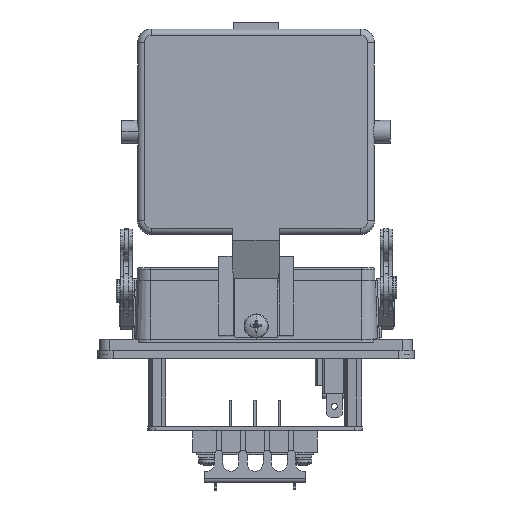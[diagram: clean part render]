
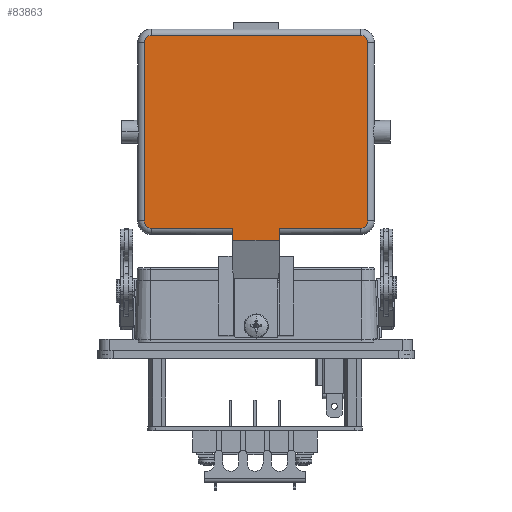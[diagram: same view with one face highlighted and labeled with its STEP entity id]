
A CAD part, front view. The second image highlights one B-rep face of the part: STEP entity #83863.
In plain terms, the highlighted planar face has unit normal (0, -1, -0.002).
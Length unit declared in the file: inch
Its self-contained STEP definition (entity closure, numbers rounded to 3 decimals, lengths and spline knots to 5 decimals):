
#40359 = LINE ( 'NONE', #40447, #40446 ) ;
#40360 = CARTESIAN_POINT ( 'NONE',  ( 0.68854, -1.73273, 0.82541 ) ) ;
#40445 = DIRECTION ( 'NONE',  ( 1., 0., 0. ) ) ;
#40446 = VECTOR ( 'NONE', #40445, 39.37008 ) ;
#40447 = CARTESIAN_POINT ( 'NONE',  ( 0.68854, -1.73273, 0.82541 ) ) ;
#41749 = CARTESIAN_POINT ( 'NONE',  ( 1.4153, -1.73229, 0.63572 ) ) ;
#41801 = DIRECTION ( 'NONE',  ( -1., 0., 0. ) ) ;
#41802 = DIRECTION ( 'NONE',  ( 0., -1., -0.002 ) ) ;
#41803 = CARTESIAN_POINT ( 'NONE',  ( 2.68792, -1.733, 0.94003 ) ) ;
#41804 = AXIS2_PLACEMENT_3D ( 'NONE', #41803, #41802, #41801 ) ;
#41805 = CIRCLE ( 'NONE', #41804, 0.11462 ) ;
#41809 = CARTESIAN_POINT ( 'NONE',  ( 2.80254, -1.733, 0.94003 ) ) ;
#41950 = CARTESIAN_POINT ( 'NONE',  ( 1.4153, -1.73273, 0.82541 ) ) ;
#42019 = DIRECTION ( 'NONE',  ( 1., 0., 0. ) ) ;
#42021 = VECTOR ( 'NONE', #42019, 39.37008 ) ;
#42023 = CARTESIAN_POINT ( 'NONE',  ( 2.68792, -1.73273, 0.82541 ) ) ;
#42024 = LINE ( 'NONE', #42023, #42021 ) ;
#42030 = CARTESIAN_POINT ( 'NONE',  ( 2.68792, -1.73273, 0.82541 ) ) ;
#42309 = CARTESIAN_POINT ( 'NONE',  ( -0.58408, -1.73273, 0.82541 ) ) ;
#42342 = CARTESIAN_POINT ( 'NONE',  ( -0.69869, -1.733, 0.94003 ) ) ;
#42343 = DIRECTION ( 'NONE',  ( -1., 0., 0. ) ) ;
#42345 = DIRECTION ( 'NONE',  ( 0., -1., -0.002 ) ) ;
#42346 = CARTESIAN_POINT ( 'NONE',  ( -0.58408, -1.733, 0.94003 ) ) ;
#42347 = AXIS2_PLACEMENT_3D ( 'NONE', #42346, #42345, #42343 ) ;
#42348 = CIRCLE ( 'NONE', #42347, 0.11462 ) ;
#43598 = DIRECTION ( 'NONE',  ( 0., 0.002, -1. ) ) ;
#43599 = VECTOR ( 'NONE', #43598, 39.37008 ) ;
#43600 = CARTESIAN_POINT ( 'NONE',  ( 1.4153, -1.72568, -2.20602 ) ) ;
#43601 = LINE ( 'NONE', #43600, #43599 ) ;
#43719 = DIRECTION ( 'NONE',  ( -1., 0., 0. ) ) ;
#43720 = DIRECTION ( 'NONE',  ( 0., -1., -0.002 ) ) ;
#43721 = CARTESIAN_POINT ( 'NONE',  ( 2.68792, -1.73947, 3.72402 ) ) ;
#43722 = AXIS2_PLACEMENT_3D ( 'NONE', #43721, #43720, #43719 ) ;
#43723 = CIRCLE ( 'NONE', #43722, 0.11462 ) ;
#43741 = DIRECTION ( 'NONE',  ( 0., -0.002, 1. ) ) ;
#43743 = VECTOR ( 'NONE', #43741, 39.37008 ) ;
#43746 = CARTESIAN_POINT ( 'NONE',  ( 2.80254, -1.73947, 3.72402 ) ) ;
#43748 = LINE ( 'NONE', #43746, #43743 ) ;
#43755 = CARTESIAN_POINT ( 'NONE',  ( 2.80254, -1.73947, 3.72402 ) ) ;
#43769 = DIRECTION ( 'NONE',  ( -1., 0., 0. ) ) ;
#43770 = VECTOR ( 'NONE', #43769, 39.37008 ) ;
#43771 = CARTESIAN_POINT ( 'NONE',  ( 1.05192, -1.73974, 3.83864 ) ) ;
#43772 = LINE ( 'NONE', #43771, #43770 ) ;
#43774 = CARTESIAN_POINT ( 'NONE',  ( -0.58408, -1.73974, 3.83864 ) ) ;
#43798 = CARTESIAN_POINT ( 'NONE',  ( 2.68792, -1.73974, 3.83864 ) ) ;
#45340 = CARTESIAN_POINT ( 'NONE',  ( 0.68854, -1.73229, 0.63572 ) ) ;
#45801 = LINE ( 'NONE', #45960, #45958 ) ;
#45956 = DIRECTION ( 'NONE',  ( 0., -0.002, 1. ) ) ;
#45958 = VECTOR ( 'NONE', #45956, 39.37008 ) ;
#45960 = CARTESIAN_POINT ( 'NONE',  ( 0.68854, -1.72568, -2.20602 ) ) ;
#46081 = DIRECTION ( 'NONE',  ( 0., 0.002, -1. ) ) ;
#46084 = VECTOR ( 'NONE', #46081, 39.37008 ) ;
#46085 = CARTESIAN_POINT ( 'NONE',  ( -0.69869, -1.72568, -2.20602 ) ) ;
#46086 = LINE ( 'NONE', #46085, #46084 ) ;
#46091 = CARTESIAN_POINT ( 'NONE',  ( -0.69869, -1.73947, 3.72402 ) ) ;
#46093 = DIRECTION ( 'NONE',  ( -1., 0., 0. ) ) ;
#46095 = DIRECTION ( 'NONE',  ( 0., -1., -0.002 ) ) ;
#46098 = CARTESIAN_POINT ( 'NONE',  ( -0.58408, -1.73947, 3.72402 ) ) ;
#46100 = AXIS2_PLACEMENT_3D ( 'NONE', #46098, #46095, #46093 ) ;
#46103 = CIRCLE ( 'NONE', #46100, 0.11462 ) ;
#46773 = FACE_OUTER_BOUND ( 'NONE', #83864, .T. ) ;
#46864 = DIRECTION ( 'NONE',  ( 1., 0., 0. ) ) ;
#46867 = VECTOR ( 'NONE', #46864, 39.37008 ) ;
#46871 = CARTESIAN_POINT ( 'NONE',  ( 1.05192, -1.73229, 0.63572 ) ) ;
#46874 = LINE ( 'NONE', #46871, #46867 ) ;
#46886 = DIRECTION ( 'NONE',  ( -1., 0., 0. ) ) ;
#46887 = DIRECTION ( 'NONE',  ( 0., 1., 0.002 ) ) ;
#46889 = CARTESIAN_POINT ( 'NONE',  ( 1.05192, -1.72568, -2.20602 ) ) ;
#46891 = AXIS2_PLACEMENT_3D ( 'NONE', #46889, #46887, #46886 ) ;
#46897 = PLANE ( 'NONE',  #46891 ) ;
#82761 = VERTEX_POINT ( 'NONE', #40360 ) ;
#82763 = EDGE_CURVE ( 'NONE', #83030, #82761, #40359, .T. ) ;
#82957 = VERTEX_POINT ( 'NONE', #41749 ) ;
#82961 = VERTEX_POINT ( 'NONE', #41809 ) ;
#82963 = EDGE_CURVE ( 'NONE', #83004, #82961, #41805, .T. ) ;
#82998 = VERTEX_POINT ( 'NONE', #41950 ) ;
#83004 = VERTEX_POINT ( 'NONE', #42030 ) ;
#83006 = EDGE_CURVE ( 'NONE', #82998, #83004, #42024, .T. ) ;
#83030 = VERTEX_POINT ( 'NONE', #42309 ) ;
#83267 = EDGE_CURVE ( 'NONE', #83268, #83030, #42348, .T. ) ;
#83268 = VERTEX_POINT ( 'NONE', #42342 ) ;
#83454 = EDGE_CURVE ( 'NONE', #82998, #82957, #43601, .T. ) ;
#83469 = EDGE_CURVE ( 'NONE', #83485, #83493, #43723, .T. ) ;
#83477 = VERTEX_POINT ( 'NONE', #43774 ) ;
#83479 = EDGE_CURVE ( 'NONE', #83493, #83477, #43772, .T. ) ;
#83485 = VERTEX_POINT ( 'NONE', #43755 ) ;
#83487 = EDGE_CURVE ( 'NONE', #82961, #83485, #43748, .T. ) ;
#83493 = VERTEX_POINT ( 'NONE', #43798 ) ;
#83687 = VERTEX_POINT ( 'NONE', #45340 ) ;
#83752 = EDGE_CURVE ( 'NONE', #83687, #82761, #45801, .T. ) ;
#83768 = ORIENTED_EDGE ( 'NONE', *, *, #83469, .T. ) ;
#83769 = ORIENTED_EDGE ( 'NONE', *, *, #83479, .T. ) ;
#83770 = ORIENTED_EDGE ( 'NONE', *, *, #83771, .T. ) ;
#83771 = EDGE_CURVE ( 'NONE', #83477, #83772, #46103, .T. ) ;
#83772 = VERTEX_POINT ( 'NONE', #46091 ) ;
#83773 = ORIENTED_EDGE ( 'NONE', *, *, #83774, .T. ) ;
#83774 = EDGE_CURVE ( 'NONE', #83772, #83268, #46086, .T. ) ;
#83775 = ORIENTED_EDGE ( 'NONE', *, *, #83267, .T. ) ;
#83776 = ORIENTED_EDGE ( 'NONE', *, *, #82763, .T. ) ;
#83863 = ADVANCED_FACE ( 'NONE', ( #46773 ), #46897, .F. ) ;
#83864 = EDGE_LOOP ( 'NONE', ( #83865, #83866, #83867, #83868, #83869, #83870, #83768, #83769, #83770, #83773, #83775, #83776 ) ) ;
#83865 = ORIENTED_EDGE ( 'NONE', *, *, #83752, .F. ) ;
#83866 = ORIENTED_EDGE ( 'NONE', *, *, #83873, .T. ) ;
#83867 = ORIENTED_EDGE ( 'NONE', *, *, #83454, .F. ) ;
#83868 = ORIENTED_EDGE ( 'NONE', *, *, #83006, .T. ) ;
#83869 = ORIENTED_EDGE ( 'NONE', *, *, #82963, .T. ) ;
#83870 = ORIENTED_EDGE ( 'NONE', *, *, #83487, .T. ) ;
#83873 = EDGE_CURVE ( 'NONE', #83687, #82957, #46874, .T. ) ;
